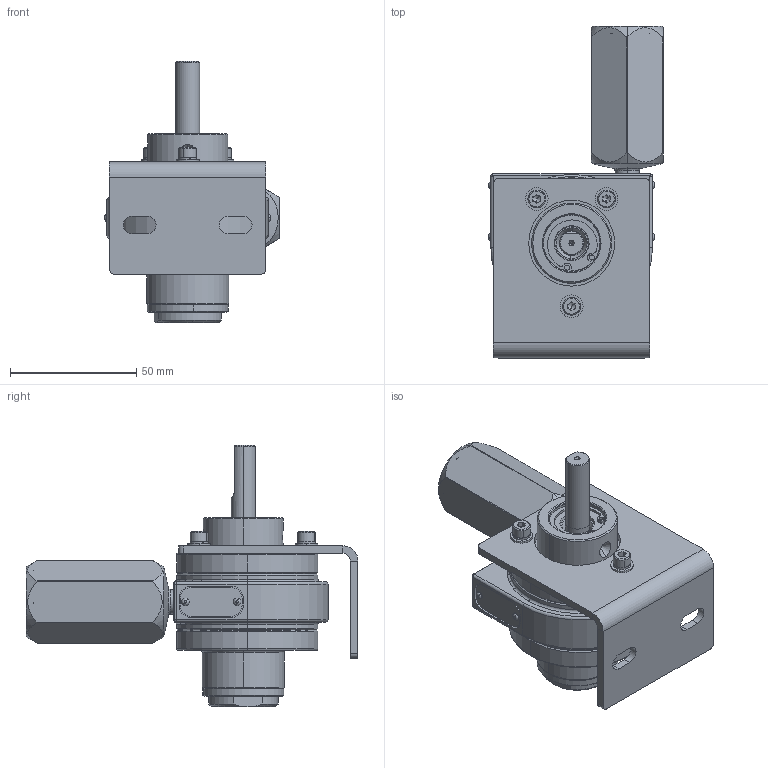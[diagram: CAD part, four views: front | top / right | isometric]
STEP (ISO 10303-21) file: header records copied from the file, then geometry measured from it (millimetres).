
FILE_DESCRIPTION (( 'STEP AP214' ), '1' );
FILE_NAME ('1VMS-Foot (Alu. End Plates)_23-04-26.STEP', '2026-04-23T09:31:20', ( '' ), ( '' ), 'SwSTEP 2.0', 'SolidWorks 2017', '' );
FILE_SCHEMA (( 'AUTOMOTIVE_DESIGN' ));
Length unit declared in the file: millimetre
Products named in the file (2): 1VMS-Foot (Alu. End Plates)_23-04-26
Bounding box: 69.05 x 131.43 x 103.42 mm (x, y, z)
Surface area: 64992.1 mm2 (no closed solid volume)
Topology: 0 solids, 39 shells, 1001 faces, 2495 edges, 1580 vertices
Faces by surface type: plane 390, cylinder 335, cone 199, torus 71, bspline 6
Entity records: 42782 total; most frequent: CARTESIAN_POINT 7642, DIRECTION 5311, ORIENTED_EDGE 4719, EDGE_CURVE 2461, AXIS2_PLACEMENT_3D 2047, VERTEX_POINT 1580, VECTOR 1217, LINE 1217
